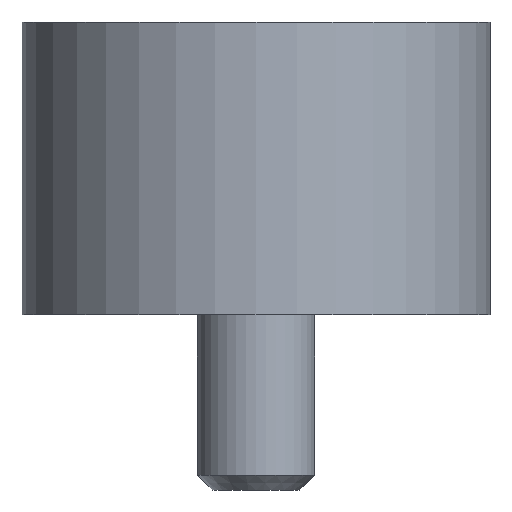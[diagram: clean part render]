
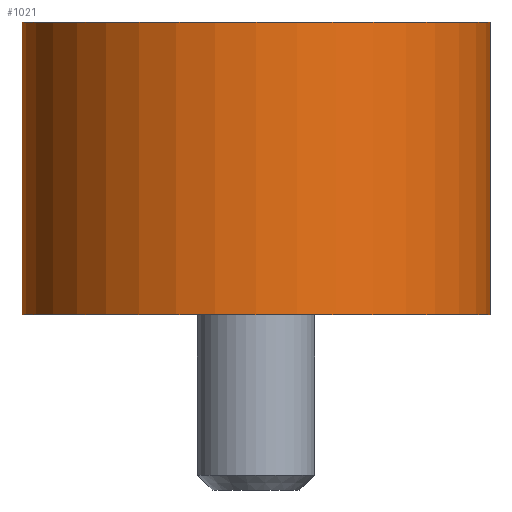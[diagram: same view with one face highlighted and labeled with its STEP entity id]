
A CAD part, front view. The second image highlights one B-rep face of the part: STEP entity #1021.
In plain terms, the highlighted cylindrical face has radius 8 mm (diameter 16 mm), a partial arc.
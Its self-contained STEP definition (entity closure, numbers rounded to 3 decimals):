
#43 = FACE_OUTER_BOUND ( 'NONE', #191, .T. ) ;
#49 = AXIS2_PLACEMENT_3D ( 'NONE', #610, #281, #446 ) ;
#55 = ORIENTED_EDGE ( 'NONE', *, *, #364, .F. ) ;
#62 = LINE ( 'NONE', #136, #876 ) ;
#109 = VERTEX_POINT ( 'NONE', #571 ) ;
#113 = DIRECTION ( 'NONE',  ( 1., 0., 0. ) ) ;
#136 = CARTESIAN_POINT ( 'NONE',  ( 8., 0., 5. ) ) ;
#140 = DIRECTION ( 'NONE',  ( 0., 0., 1. ) ) ;
#158 = CARTESIAN_POINT ( 'NONE',  ( 8., 0., 10. ) ) ;
#168 = AXIS2_PLACEMENT_3D ( 'NONE', #383, #704, #113 ) ;
#177 = DIRECTION ( 'NONE',  ( 0., 0., 1. ) ) ;
#191 = EDGE_LOOP ( 'NONE', ( #1047, #1061, #378, #55 ) ) ;
#255 = CARTESIAN_POINT ( 'NONE',  ( -8., 0., 5. ) ) ;
#281 = DIRECTION ( 'NONE',  ( 0., 0., 1. ) ) ;
#348 = DIRECTION ( 'NONE',  ( 0., 0., 1. ) ) ;
#351 = CARTESIAN_POINT ( 'NONE',  ( -8., 0., 0. ) ) ;
#364 = EDGE_CURVE ( 'NONE', #109, #943, #1081, .T. ) ;
#378 = ORIENTED_EDGE ( 'NONE', *, *, #675, .T. ) ;
#383 = CARTESIAN_POINT ( 'NONE',  ( 0., 0., 0. ) ) ;
#386 = VECTOR ( 'NONE', #177, 1000. ) ;
#390 = VERTEX_POINT ( 'NONE', #779 ) ;
#446 = DIRECTION ( 'NONE',  ( 1., 0., 0. ) ) ;
#504 = LINE ( 'NONE', #255, #386 ) ;
#513 = DIRECTION ( 'NONE',  ( 1., 0., 0. ) ) ;
#571 = CARTESIAN_POINT ( 'NONE',  ( -8., 0., 10. ) ) ;
#610 = CARTESIAN_POINT ( 'NONE',  ( 0., 0., 10. ) ) ;
#634 = EDGE_CURVE ( 'NONE', #390, #1056, #701, .T. ) ;
#675 = EDGE_CURVE ( 'NONE', #390, #943, #62, .T. ) ;
#701 = CIRCLE ( 'NONE', #168, 8. ) ;
#704 = DIRECTION ( 'NONE',  ( 0., 0., -1. ) ) ;
#761 = CARTESIAN_POINT ( 'NONE',  ( 0., 0., 5. ) ) ;
#779 = CARTESIAN_POINT ( 'NONE',  ( 8., 0., 0. ) ) ;
#830 = AXIS2_PLACEMENT_3D ( 'NONE', #761, #348, #513 ) ;
#846 = CYLINDRICAL_SURFACE ( 'NONE', #830, 8. ) ;
#876 = VECTOR ( 'NONE', #140, 1000. ) ;
#943 = VERTEX_POINT ( 'NONE', #158 ) ;
#1021 = ADVANCED_FACE ( 'NONE', ( #43 ), #846, .T. ) ;
#1041 = EDGE_CURVE ( 'NONE', #1056, #109, #504, .T. ) ;
#1047 = ORIENTED_EDGE ( 'NONE', *, *, #1041, .F. ) ;
#1056 = VERTEX_POINT ( 'NONE', #351 ) ;
#1061 = ORIENTED_EDGE ( 'NONE', *, *, #634, .F. ) ;
#1081 = CIRCLE ( 'NONE', #49, 8. ) ;
